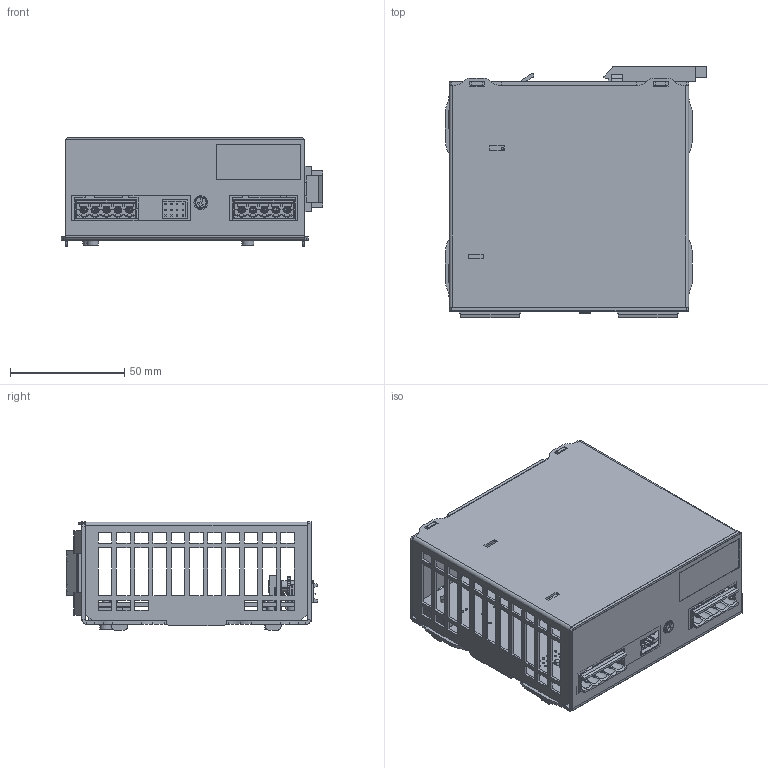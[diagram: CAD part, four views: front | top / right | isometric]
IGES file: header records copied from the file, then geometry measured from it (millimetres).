
Global section: file name: No Iges File Name specified; native system: Autodesk Inventor 2012; preprocessor: AutoDesk Inventor Iges Exporter R2012; author: Tecnico2; date: 20151201.164614; units: millimetre
Bounding box: 114.5 x 110.21 x 47.6 mm (x, y, z)
Volume: 69271 mm3; surface area: 111755.2 mm2
Topology: 52 solids, 52 shells, 3250 faces, 8654 edges, 5509 vertices
Faces by surface type: plane 1916, cylinder 602, revolution 337, torus 188, bspline 130, sphere 53, cone 24
Full cylindrical faces by diameter (mm): 2.4 x2, 2.675 x4, 2.75 x10, 2.8 x1, 3 x4, 3.8 x1, 4.3 x2, 5 x3, 5.594 x1, 6 x3, 9 x1
